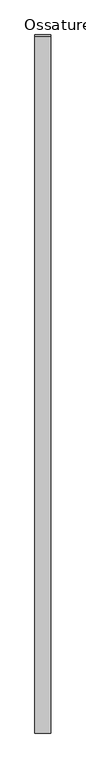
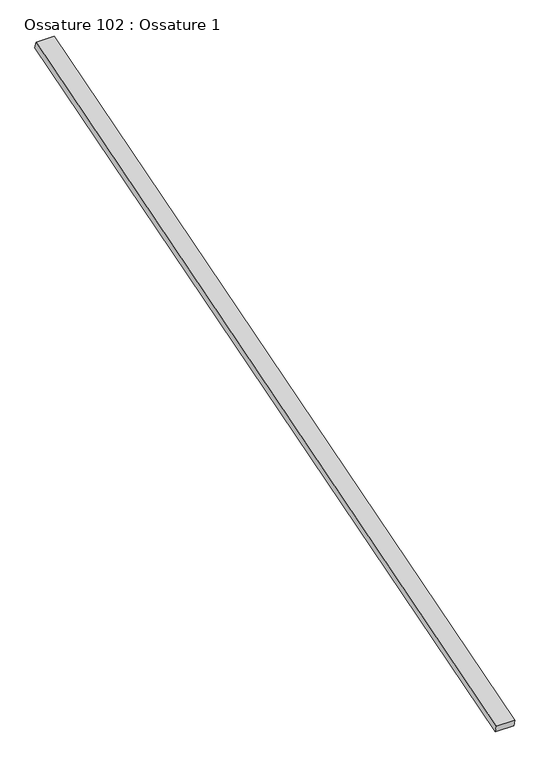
"""IFC4 building model written with IfcOpenShell, lengths in millimetres: beam geometry, Ossature 102 : Ossature 1."""

from ifc_helpers import new_model, si_unit, frame, origin, place, context, project, spatial, polyline, outline, extrude, source, transform, mapped, element, save


def ossature_102_ossature_1_6d1b6526(model_context):
    return source(origin(), model_context, "Body", "SweptSolid", [
        extrude(outline(polyline([(0.0, 0.0), (0.0, -4543.0299679), (-100.0, -4543.0299679), (-100.0, 0.0), (0.0, 0.0)])), frame((24571.2466393, -833.3913565, 8153.6336115), z_axis=(0.0, -0.28734788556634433, 0.9578262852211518), x_axis=(-1.0, 0.0, 0.0)), (0.0, 0.0, 1.0), 40.0),
    ])


if __name__ == "__main__":
    model = new_model("IFC4")
    model_context = context("Model", 3, world=origin())
    ifc_project = project(units=[si_unit("LENGTHUNIT", "METRE", prefix="MILLI")], contexts=[model_context])
    site = spatial("IfcSite", under=ifc_project)
    building = spatial("IfcBuilding", under=site)
    placement = place(None, origin())
    ossature_102_ossature_1_shape = ossature_102_ossature_1_6d1b6526(model_context)
    element("IfcBeam", 1, ObjectType="Ossature 102 : Ossature 1", at=placement, inside=building, context=model_context, shape_type="MappedRepresentation", body=[
        mapped(ossature_102_ossature_1_shape, transform((0.0, 0.0, 0.0), x_axis=(1.0, 0.0, 0.0), y_axis=(0.0, 1.0, 0.0), z_axis=(0.0, 0.0, 1.0))),
    ])
    save(model, "model.ifc")
